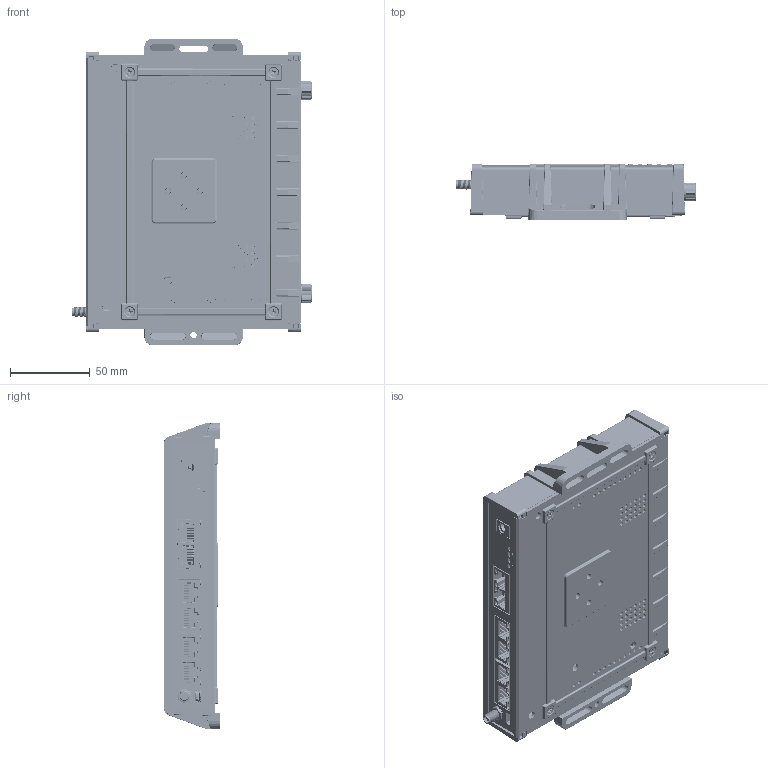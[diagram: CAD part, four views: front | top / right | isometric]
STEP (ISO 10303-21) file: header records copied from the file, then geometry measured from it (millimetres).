
FILE_DESCRIPTION (( 'STEP AP203' ), '1' );
FILE_NAME ('50002072-02 REV D.STEP', '2024-04-08T19:44:03', ( '' ), ( '' ), 'SwSTEP 2.0', 'SolidWorks 2022', '' );
FILE_SCHEMA (( 'CONFIG_CONTROL_DESIGN' ));
Length unit declared in the file: inch
Products named in the file (1): 50002072-02 REV D
Bounding box: 149.74 x 35 x 191.73 mm (x, y, z)
Surface area: 226500.9 mm2 (no closed solid volume)
Topology: 0 solids, 29 shells, 8475 faces, 21717 edges, 13372 vertices
Faces by surface type: bspline 3503, plane 2255, cylinder 1778, cone 527, torus 268, sphere 144
Entity records: 308230 total; most frequent: CARTESIAN_POINT 138291, ORIENTED_EDGE 43100, DIRECTION 22842, EDGE_CURVE 21559, VERTEX_POINT 13372, B_SPLINE_CURVE_WITH_KNOTS 10324, EDGE_LOOP 9043, ADVANCED_FACE 8475
